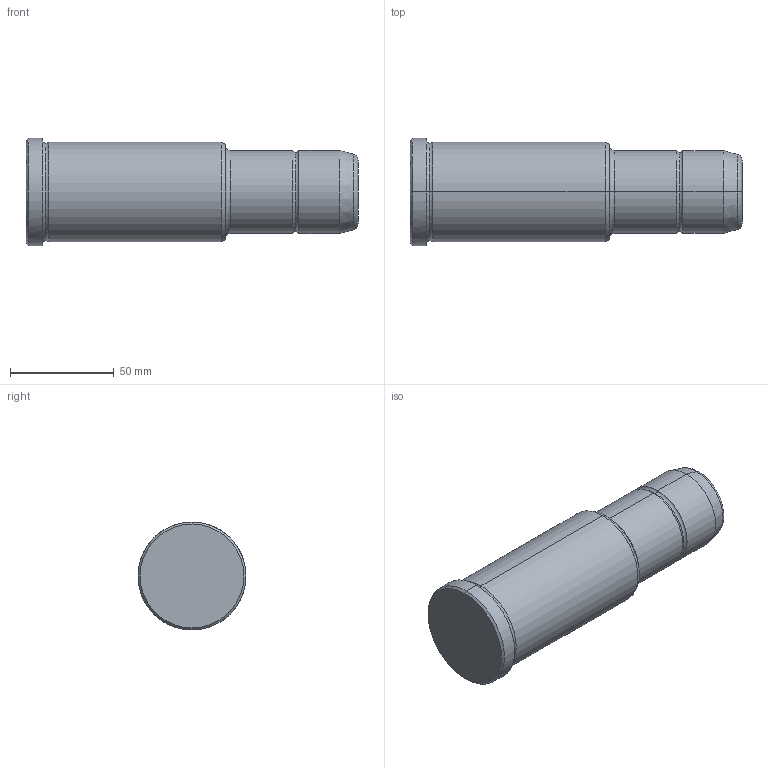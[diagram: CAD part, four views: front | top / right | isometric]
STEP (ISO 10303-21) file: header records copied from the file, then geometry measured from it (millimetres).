
FILE_DESCRIPTION(('CATIA V5 STEP Exchange'),'2;1');
FILE_NAME('C:\Users\Utente\Desktop\IO LAVORO\3D X SITO CF\X SITO\PLASTICA\351\351-40X96X160.stp','2021-10-07T14:12:34+00:00',('none'),('none'),'CATIA Version 5 Release 20 GA (IN-10)','CATIA V5 STEP AP203','none');
FILE_SCHEMA(('CONFIG_CONTROL_DESIGN'));
Length unit declared in the file: millimetre
Products named in the file (1): 351-40X96X160
Bounding box: 160 x 52 x 52 mm (x, y, z)
Volume: 254738.5 mm3; surface area: 26227.1 mm2
Topology: 1 solids, 1 shells, 30 faces, 86 edges, 60 vertices
Faces by surface type: torus 12, cylinder 8, cone 6, plane 4
Entity records: 1112 total; most frequent: CARTESIAN_POINT 289, ORIENTED_EDGE 172, DIRECTION 138, AXIS2_PLACEMENT_3D 95, EDGE_CURVE 86, CIRCLE 64, VERTEX_POINT 60, EDGE_LOOP 32
